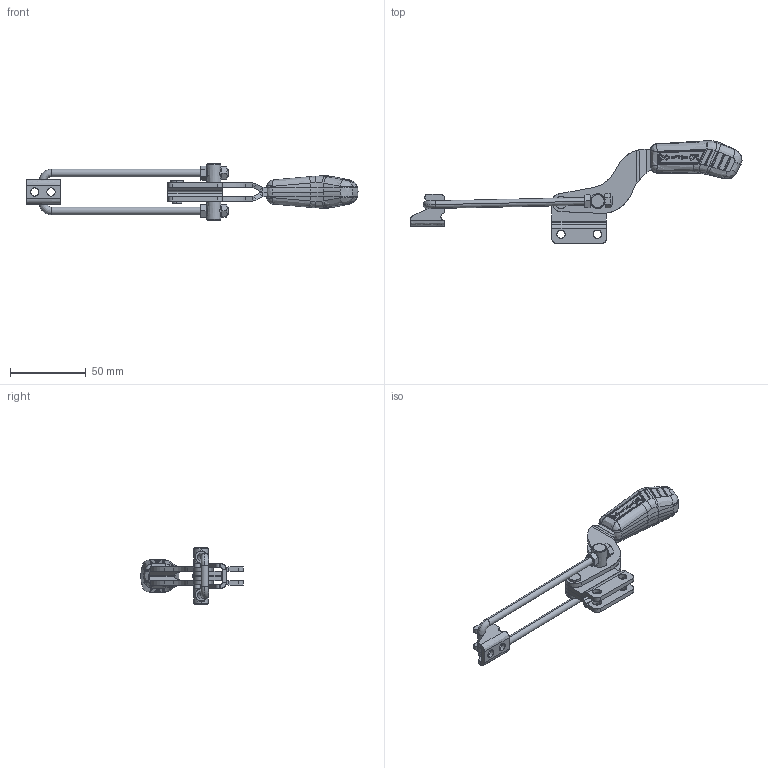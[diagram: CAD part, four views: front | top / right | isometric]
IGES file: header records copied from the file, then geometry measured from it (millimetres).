
Start section: SolidWorks IGES file using analytic representation for surfaces
Global section: file name: C:\Projetos\Grampos\KF-643\KF-643 RL\KF-643 RL.IGS; native system: SolidWorks 2013; preprocessor: SolidWorks 2013; author: Ricardo; date: 140820.153614; units: millimetre
Bounding box: 219.1 x 67.76 x 37 mm (x, y, z)
Surface area: 29156 mm2 (no closed solid volume)
Topology: 0 solids, 0 shells, 940 faces, 9261 edges, 9205 vertices
Faces by surface type: bspline 538, revolution 402
